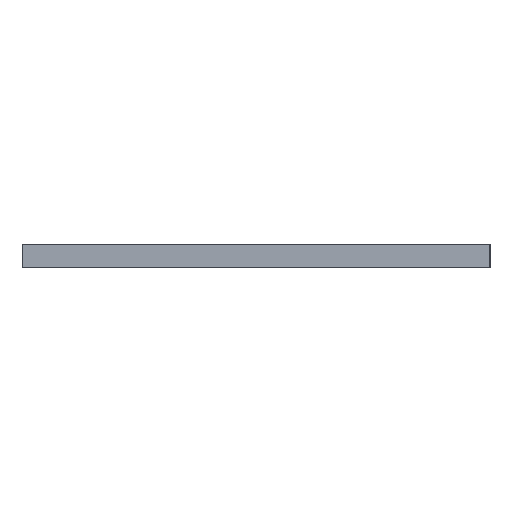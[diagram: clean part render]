
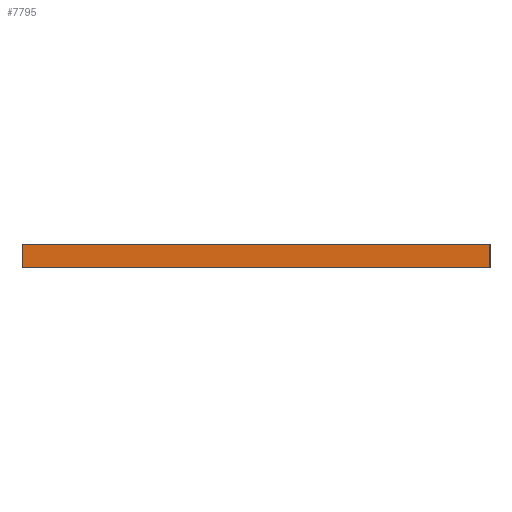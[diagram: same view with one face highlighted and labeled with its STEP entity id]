
A CAD part, left-side view. The second image highlights one B-rep face of the part: STEP entity #7795.
In plain terms, the highlighted planar face has unit normal (-1, 0, 0).
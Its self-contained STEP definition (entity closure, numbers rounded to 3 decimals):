
#953=PLANE('',#8492);
#1292=FACE_OUTER_BOUND('',#1631,.T.);
#1631=EDGE_LOOP('',(#6603,#6604,#6605,#6606));
#2394=LINE('',#13035,#3067);
#2395=LINE('',#13038,#3068);
#2396=LINE('',#13040,#3069);
#2397=LINE('',#13041,#3070);
#3067=VECTOR('',#10672,10.);
#3068=VECTOR('',#10675,10.);
#3069=VECTOR('',#10676,10.);
#3070=VECTOR('',#10677,10.);
#4252=VERTEX_POINT('',#13031);
#4253=VERTEX_POINT('',#13033);
#4254=VERTEX_POINT('',#13037);
#4255=VERTEX_POINT('',#13039);
#5259=EDGE_CURVE('',#4252,#4253,#2394,.T.);
#5260=EDGE_CURVE('',#4252,#4254,#2395,.T.);
#5261=EDGE_CURVE('',#4255,#4253,#2396,.T.);
#5262=EDGE_CURVE('',#4254,#4255,#2397,.T.);
#6603=ORIENTED_EDGE('',*,*,#5260,.F.);
#6604=ORIENTED_EDGE('',*,*,#5259,.T.);
#6605=ORIENTED_EDGE('',*,*,#5261,.F.);
#6606=ORIENTED_EDGE('',*,*,#5262,.F.);
#7795=ADVANCED_FACE('',(#1292),#953,.T.);
#8492=AXIS2_PLACEMENT_3D('',#13036,#10673,#10674);
#10672=DIRECTION('',(0.,0.,-1.));
#10673=DIRECTION('center_axis',(-1.,0.,0.));
#10674=DIRECTION('ref_axis',(0.,1.,0.));
#10675=DIRECTION('',(0.,-1.,0.));
#10676=DIRECTION('',(0.,1.,0.));
#10677=DIRECTION('',(0.,0.,-1.));
#13031=CARTESIAN_POINT('',(-34.5,23.75,0.));
#13033=CARTESIAN_POINT('',(-34.5,23.75,-2.4));
#13035=CARTESIAN_POINT('',(-34.5,23.75,0.));
#13036=CARTESIAN_POINT('Origin',(-34.5,-23.75,0.));
#13037=CARTESIAN_POINT('',(-34.5,-23.75,0.));
#13038=CARTESIAN_POINT('',(-34.5,23.75,0.));
#13039=CARTESIAN_POINT('',(-34.5,-23.75,-2.4));
#13040=CARTESIAN_POINT('',(-34.5,23.75,-2.4));
#13041=CARTESIAN_POINT('',(-34.5,-23.75,0.));
